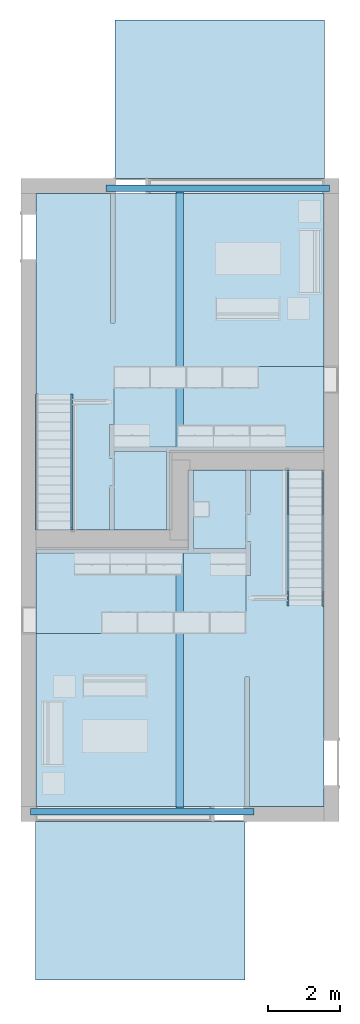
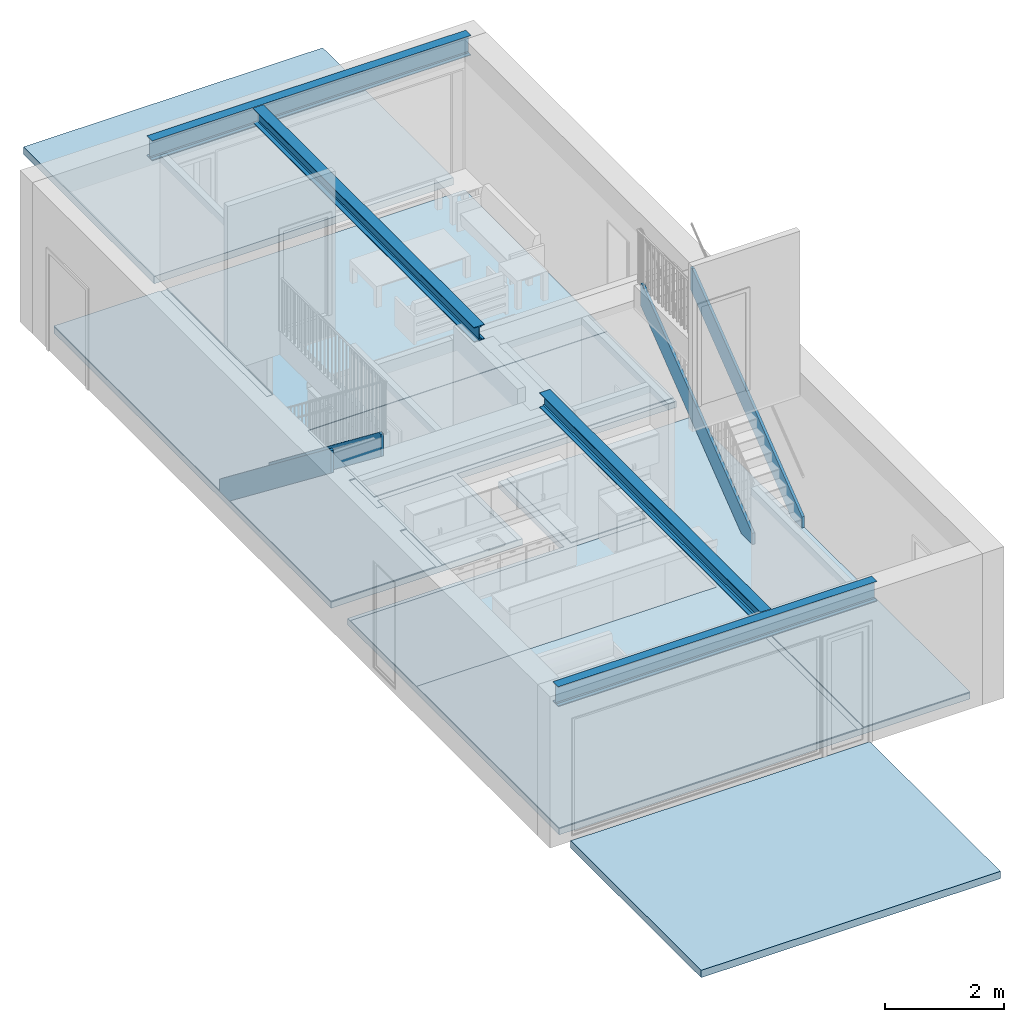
# One storey, part 1 of 18: 10 slabs, 4 beams, 4 members, 2 elements without a shape of their own.
"""IFC4 building model written with IfcOpenShell, lengths in metres."""

import ifcopenshell
import ifcopenshell.guid

model = None  # the IFC model being written
_history = None  # IfcOwnerHistory: only IFC2X3 demands one
_inside = {}  # id of a spatial element -> (the spatial element, [elements in it])
_under = {}  # id of a project, library or spatial element -> (it, [spatial elements below it])
_declared = {}  # id of a project -> (the project, [libraries it declares])
_typed = {}  # id of a type object -> (the type object, [elements of that type])
_made_of = {}  # id of a material, layer set ... -> (it, [elements and type objects made of it])


def new_model(schema):
    """Start an empty IFC model of exactly this schema.

    Asked for "IFC4X3", IfcOpenShell would pick the latest addendum, in which some entities
    have other attributes; the version numbers below select the first issue.
    IFC2X3 requires an IfcOwnerHistory on every rooted entity: one is made here for all.
    """
    global model, _history
    if schema == "IFC4X3":
        model = ifcopenshell.file(schema_version=(4, 3, 0, 0))
    else:
        model = ifcopenshell.file(schema=schema)
    _inside.clear()
    _under.clear()
    _declared.clear()
    _typed.clear()
    _made_of.clear()
    _history = None
    if model.schema == "IFC2X3":
        org = make("IfcOrganization", Name="unknown")
        user = make(
            "IfcPersonAndOrganization",
            ThePerson=make("IfcPerson", FamilyName="unknown"),
            TheOrganization=org,
        )
        app = make(
            "IfcApplication",
            ApplicationDeveloper=org,
            Version="unknown",
            ApplicationFullName="unknown",
            ApplicationIdentifier="unknown",
        )
        _history = make(
            "IfcOwnerHistory",
            OwningUser=user,
            OwningApplication=app,
            ChangeAction="ADDED",
            CreationDate=0,
        )
    return model


def make(cls, **values):
    """One entity of the class cls with the attributes given. An attribute that is None is left unset."""
    return model.create_entity(
        cls, **{name: value for name, value in values.items() if value is not None}
    )


def entity(cls, *values):
    """Any entity or typed value of the class cls, its attributes in the order of the schema. None: left unset."""
    e = model.create_entity(cls)
    for i, value in enumerate(values):
        if value is not None:
            e[i] = value
    return e


def rooted(cls, **values):
    """An entity with a GlobalId (a new one), such as an element, a storey or a relation."""
    return make(cls, GlobalId=ifcopenshell.guid.new(), OwnerHistory=_history, **values)


def si_unit(unit_type, name, prefix=None):
    """IfcSIUnit, for example si_unit("LENGTHUNIT", "METRE", prefix="MILLI")."""
    return make("IfcSIUnit", UnitType=unit_type, Prefix=prefix, Name=name)


def converted_unit(unit_type, name, factor, base, dimensions=None, offset=None):
    """IfcConversionBasedUnit, such as the inch: factor (a typed value) times the base unit."""
    return make(
        "IfcConversionBasedUnit"
        if offset is None
        else "IfcConversionBasedUnitWithOffset",
        ConversionOffset=offset,
        Dimensions=None
        if dimensions is None
        else entity("IfcDimensionalExponents", *dimensions),
        UnitType=unit_type,
        Name=name,
        ConversionFactor=make(
            "IfcMeasureWithUnit", ValueComponent=factor, UnitComponent=base
        ),
    )


def assignment(units):
    """IfcUnitAssignment: the units of a project."""
    return None if units is None else make("IfcUnitAssignment", Units=units)


def point(xyz):
    """IfcCartesianPoint."""
    return None if xyz is None else make("IfcCartesianPoint", Coordinates=xyz)


def direction(xyz):
    """IfcDirection."""
    return None if xyz is None else make("IfcDirection", DirectionRatios=xyz)


def frame(location, z_axis=None, x_axis=None):
    """IfcAxis2Placement3D, a coordinate frame: its origin and axes. An axis left out is left unset."""
    return make(
        "IfcAxis2Placement3D",
        Location=point(location),
        Axis=direction(z_axis),
        RefDirection=direction(x_axis),
    )


def frame_2d(location, x_axis=None):
    """IfcAxis2Placement2D, a coordinate frame in the plane: its origin and x axis."""
    return make(
        "IfcAxis2Placement2D", Location=point(location), RefDirection=direction(x_axis)
    )


def origin():
    """The frame at (0, 0, 0) with its axes left unset."""
    return frame((0.0, 0.0, 0.0))


def origin_2d_with_axis():
    """The frame at (0, 0) in the plane with the x axis (1, 0) written out."""
    return frame_2d((0.0, 0.0), x_axis=(1.0, 0.0))


def place(relative_to, where):
    """IfcLocalPlacement: puts the frame where relative to a parent placement (None: the world)."""
    return make(
        "IfcLocalPlacement", PlacementRelTo=relative_to, RelativePlacement=where
    )


def context(
    kind, dimensions, precision=None, world=None, true_north=None, identifier=None
):
    """IfcGeometricRepresentationContext, for example the 3D "Model" context."""
    return make(
        "IfcGeometricRepresentationContext",
        ContextIdentifier=identifier,
        ContextType=kind,
        CoordinateSpaceDimension=dimensions,
        Precision=precision,
        WorldCoordinateSystem=world,
        TrueNorth=true_north,
    )


def project(units=None, contexts=None):
    """IfcProject with its units and contexts."""
    return rooted(
        "IfcProject",
        Name="project",
        RepresentationContexts=contexts,
        UnitsInContext=assignment(units),
    )


def spatial(cls, under=None, at=None, **own):
    """A site, building, storey or space (cls), placed at a placement, below another one or the project."""
    s = rooted(cls, ObjectPlacement=at, **own)
    if under is not None:
        _under.setdefault(under.id(), (under, []))[1].append(s)
    return s


def polyline(points):
    """IfcPolyline through the points."""
    return make("IfcPolyline", Points=[point(p) for p in points])


def circle_curve(where, radius):
    """IfcCircle in the frame where."""
    return make("IfcCircle", Position=where, Radius=radius)


def parameter(value):
    """IfcParameterValue: where a trimmed curve begins or ends, as a parameter of its basis curve."""
    return model.create_entity("IfcParameterValue", value)


def trimmed(basis, trim1, trim2, sense, master):
    """IfcTrimmedCurve: the piece of a basis curve between two trims."""
    return make(
        "IfcTrimmedCurve",
        BasisCurve=basis,
        Trim1=trim1,
        Trim2=trim2,
        SenseAgreement=sense,
        MasterRepresentation=master,
    )


def segment(curve, same_sense, transition):
    """IfcCompositeCurveSegment."""
    return make(
        "IfcCompositeCurveSegment",
        Transition=transition,
        SameSense=same_sense,
        ParentCurve=curve,
    )


def composite_curve(segments, self_intersect=None):
    """IfcCompositeCurve: segments joined end to end."""
    return make("IfcCompositeCurve", Segments=segments, SelfIntersect=self_intersect)


def profile(cls, at=None, kind="AREA", **sizes):
    """A parametric profile (cls). Its sizes go by their IFC names, for example OverallWidth=200.0."""
    return make(cls, ProfileType=kind, Position=at, **sizes)


def rectangle(**sizes):
    """IfcRectangleProfileDef."""
    return profile("IfcRectangleProfileDef", **sizes)


def outline(outer, holes=None, kind="AREA"):
    """IfcArbitraryClosedProfileDef: a profile drawn as a closed curve; with holes, ...WithVoids."""
    if holes is None:
        return make("IfcArbitraryClosedProfileDef", ProfileType=kind, OuterCurve=outer)
    return make(
        "IfcArbitraryProfileDefWithVoids",
        ProfileType=kind,
        OuterCurve=outer,
        InnerCurves=holes,
    )


def extrude(swept, where, along, depth):
    """IfcExtrudedAreaSolid: the profile swept, set in the frame where, extruded along a direction by depth."""
    return make(
        "IfcExtrudedAreaSolid",
        SweptArea=swept,
        Position=where,
        ExtrudedDirection=direction(along),
        Depth=depth,
    )


def shape(context_of_items, identifier, shape_type, items):
    """IfcShapeRepresentation: the items that make up one representation, for example the "Body"."""
    return make(
        "IfcShapeRepresentation",
        ContextOfItems=context_of_items,
        RepresentationIdentifier=identifier,
        RepresentationType=shape_type,
        Items=items,
    )


def material(Name=None, Category=None):
    """IfcMaterial."""
    return make("IfcMaterial", Name=Name, Category=Category)


def layer(
    of_material, thickness, ventilated=None, Name=None, Category=None, Priority=None
):
    """IfcMaterialLayer: one layer of a wall or slab, of a material (None: an air gap)."""
    return make(
        "IfcMaterialLayer",
        Material=of_material,
        LayerThickness=thickness,
        IsVentilated=ventilated,
        Name=Name,
        Category=Category,
        Priority=Priority,
    )


def layer_set(layers, Name=None):
    """IfcMaterialLayerSet."""
    return make("IfcMaterialLayerSet", MaterialLayers=layers, LayerSetName=Name)


def layer_usage(for_layer_set, set_direction, sense, offset, extent=None):
    """IfcMaterialLayerSetUsage: how a layer set lies in its element."""
    return make(
        "IfcMaterialLayerSetUsage",
        ForLayerSet=for_layer_set,
        LayerSetDirection=set_direction,
        DirectionSense=sense,
        OffsetFromReferenceLine=offset,
        ReferenceExtent=extent,
    )


def made_of(thing, what):
    """Note that an element or type object is made of a material, layer set ...; save() writes the relation."""
    if what is not None:
        _made_of.setdefault(what.id(), (what, []))[1].append(thing)
    return thing


def element(
    cls,
    number,
    at=None,
    inside=None,
    cuts=None,
    type_object=None,
    material=None,
    context=None,
    identifier="Body",
    shape_type=None,
    held_by="IfcProductDefinitionShape",
    body=None,
    shapes=None,
    **own,
):
    """One element of the class cls, such as IfcWall. Its Tag is "e" and its number.

    at: its placement. inside: the storey or other place that contains it. cuts: it is an
    opening in that element (IfcRelVoidsElement). A single representation is given by context,
    identifier, shape_type and body (its items); several are given by shapes. held_by: the class
    of the entity that holds the representations. save() writes the other relations.
    """
    e = rooted(cls, Tag="e%d" % number, ObjectPlacement=at, **own)
    if body is not None:
        shapes = [shape(context, identifier, shape_type, body)]
    if shapes is not None:
        e.Representation = make(held_by, Representations=shapes)
    if inside is not None:
        _inside.setdefault(inside.id(), (inside, []))[1].append(e)
    if cuts is not None:
        rooted(
            "IfcRelVoidsElement", RelatingBuildingElement=cuts, RelatedOpeningElement=e
        )
    if type_object is not None:
        _typed.setdefault(type_object.id(), (type_object, []))[1].append(e)
    return made_of(e, material)


def aggregate(whole, parts):
    """IfcRelAggregates: a whole, such as a stair, and the parts it consists of."""
    return rooted("IfcRelAggregates", RelatingObject=whole, RelatedObjects=parts)


def save(model, path):
    """Write the relations noted so far, then the file.

    IfcRelAggregates (storeys below a building ...), IfcRelContainedInSpatialStructure (elements
    in a storey), IfcRelDefinesByType, IfcRelAssociatesMaterial and IfcRelDeclares: one each for
    every whole, place, type object, material and project.
    """
    for whole, parts in _under.values():
        aggregate(whole, parts)
    for where, things in _inside.values():
        rooted(
            "IfcRelContainedInSpatialStructure",
            RelatedElements=things,
            RelatingStructure=where,
        )
    for kind, things in _typed.values():
        rooted("IfcRelDefinesByType", RelatedObjects=things, RelatingType=kind)
    for what, things in _made_of.values():
        rooted("IfcRelAssociatesMaterial", RelatedObjects=things, RelatingMaterial=what)
    for by, libraries in _declared.values():
        rooted("IfcRelDeclares", RelatingContext=by, RelatedDefinitions=libraries)
    model.write(path)


model = new_model("IFC4")

# Units and contexts
model_context = context("Model", 3, precision=1e-09, world=origin())
plan_context = context("Plan", 3, precision=1e-09, world=origin())
ifc_project = project(units=[si_unit("LENGTHUNIT", "METRE"), si_unit("AREAUNIT", "SQUARE_METRE"), si_unit("VOLUMEUNIT", "CUBIC_METRE"), converted_unit("PLANEANGLEUNIT", "DEGREE", entity("IfcRatioMeasure", 0.01745329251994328), si_unit("PLANEANGLEUNIT", "RADIAN"), dimensions=[0, 0, 0, 0, 0, 0, 0]), si_unit("TIMEUNIT", "SECOND")], contexts=[model_context, plan_context])

# Site, building, storey
site_placement = place(None, origin())
site = spatial("IfcSite", under=ifc_project, at=site_placement, Name="Default", CompositionType="ELEMENT")
building_placement = place(site_placement, origin())
building = spatial("IfcBuilding", under=site, at=building_placement, CompositionType="ELEMENT")
storey_placement = place(building_placement, origin())
storey = spatial("IfcBuildingStorey", under=building, at=storey_placement, Name="Level 1", CompositionType="ELEMENT", Elevation=0.0)

# Beams
ifc_material_1 = material(Name="Metal - Steel - 345 MPa")
beam_1_placement = place(storey_placement, frame((0.208499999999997, -17.52299999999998, 3.100000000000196), z_axis=(0.0, 0.0, 1.0), x_axis=(0.0, -1.0, 0.0)))
element("IfcBeam", 1, at=beam_1_placement, inside=storey, material=ifc_material_1, Name="M_W-Wide Flange:W410X60:W410X60", ObjectType="M_W-Wide Flange:W410X60", context=model_context, shape_type="SweptSolid", body=[
    extrude(outline(composite_curve([segment(polyline([(-0.08900000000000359, -0.1907), (-0.08900000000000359, -0.2035000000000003)]), True, "CONTINUOUS"), segment(polyline([(-0.08900000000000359, -0.2035000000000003), (0.0889999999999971, -0.2035000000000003)]), True, "CONTINUOUS"), segment(polyline([(0.0889999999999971, -0.2035000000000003), (0.0889999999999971, -0.1907)]), True, "CONTINUOUS"), segment(polyline([(0.0889999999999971, -0.1907), (0.02104999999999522, -0.1907)]), True, "CONTINUOUS"), segment(trimmed(circle_curve(frame_2d((0.02104999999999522, -0.1734999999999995), x_axis=(0.0, -1.0)), 0.0172), [parameter(92.33515524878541)], [parameter(92.33515524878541)], True, "PARAMETER"), False, "CONTINUOUS"), segment(polyline([(0.003849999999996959, -0.1734999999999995), (0.003849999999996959, 0.1735000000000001)]), True, "CONTINUOUS"), segment(trimmed(circle_curve(frame_2d((0.02104999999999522, 0.1735000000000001), x_axis=(-1.0, 0.0)), 0.0172), [parameter(92.33515524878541)], [parameter(92.33515524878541)], True, "PARAMETER"), False, "CONTINUOUS"), segment(polyline([(0.02104999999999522, 0.1907), (0.0889999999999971, 0.1907)]), True, "CONTINUOUS"), segment(polyline([(0.0889999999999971, 0.1907), (0.0889999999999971, 0.2034999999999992)]), True, "CONTINUOUS"), segment(polyline([(0.0889999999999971, 0.2034999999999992), (-0.08900000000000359, 0.2034999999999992)]), True, "CONTINUOUS"), segment(polyline([(-0.08900000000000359, 0.2034999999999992), (-0.08900000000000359, 0.1907)]), True, "CONTINUOUS"), segment(polyline([(-0.08900000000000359, 0.1907), (-0.02105000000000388, 0.1907)]), True, "CONTINUOUS"), segment(trimmed(circle_curve(frame_2d((-0.02105000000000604, 0.1735000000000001), x_axis=(0.0, 1.0)), 0.0172), [parameter(92.33515524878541)], [parameter(92.33515524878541)], True, "PARAMETER"), False, "CONTINUOUS"), segment(polyline([(-0.003850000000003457, 0.1735000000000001), (-0.003850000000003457, -0.1734999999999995)]), True, "CONTINUOUS"), segment(trimmed(circle_curve(frame_2d((-0.02105000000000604, -0.1734999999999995), x_axis=(1.0, 0.0)), 0.0172), [parameter(92.33515524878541)], [parameter(92.33515524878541)], True, "PARAMETER"), False, "CONTINUOUS"), segment(polyline([(-0.02105000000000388, -0.1907), (-0.08900000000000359, -0.1907)]), True, "CONTINUOUS")], self_intersect=False)), frame((0.0, 0.05811287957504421, -0.2035000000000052), z_axis=(0.0, -1.0, 0.0), x_axis=(1.0, 0.0, 0.0)), (0.0, 0.0, -1.0), 6.181887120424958),
])
beam_2_placement = place(storey_placement, frame((8.591500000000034, -0.2770000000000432, 3.100000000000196), z_axis=(0.0, 0.0, 1.0), x_axis=(0.0, 1.0, 0.0)))
element("IfcBeam", 2, at=beam_2_placement, inside=storey, material=ifc_material_1, Name="M_W-Wide Flange:W410X60:W410X60", ObjectType="M_W-Wide Flange:W410X60", context=model_context, shape_type="SweptSolid", body=[
    extrude(outline(composite_curve([segment(polyline([(0.1906999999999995, -0.08900000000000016), (0.2034999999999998, -0.08900000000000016)]), True, "CONTINUOUS"), segment(polyline([(0.2034999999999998, -0.08900000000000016), (0.2034999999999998, 0.08900000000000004)]), True, "CONTINUOUS"), segment(polyline([(0.2034999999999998, 0.08900000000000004), (0.1906999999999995, 0.08900000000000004)]), True, "CONTINUOUS"), segment(polyline([(0.1906999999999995, 0.08900000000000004), (0.1906999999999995, 0.02104999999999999)]), True, "CONTINUOUS"), segment(trimmed(circle_curve(frame_2d((0.173499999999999, 0.02104999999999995), x_axis=(1.0, 0.0)), 0.0172), [parameter(92.33515524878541)], [parameter(92.33515524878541)], True, "PARAMETER"), False, "CONTINUOUS"), segment(polyline([(0.173499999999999, 0.003849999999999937), (-0.1735000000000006, 0.003849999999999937)]), True, "CONTINUOUS"), segment(trimmed(circle_curve(frame_2d((-0.1735000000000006, 0.02104999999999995), x_axis=(0.0, -1.0)), 0.0172), [parameter(92.33515524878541)], [parameter(92.33515524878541)], True, "PARAMETER"), False, "CONTINUOUS"), segment(polyline([(-0.1907000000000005, 0.02104999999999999), (-0.1907000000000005, 0.08900000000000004)]), True, "CONTINUOUS"), segment(polyline([(-0.1907000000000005, 0.08900000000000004), (-0.2034999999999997, 0.08900000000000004)]), True, "CONTINUOUS"), segment(polyline([(-0.2034999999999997, 0.08900000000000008), (-0.2034999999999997, -0.08899999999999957)]), True, "CONTINUOUS"), segment(polyline([(-0.2034999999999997, -0.08899999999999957), (-0.1907000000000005, -0.08899999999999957)]), True, "CONTINUOUS"), segment(polyline([(-0.1907000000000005, -0.08899999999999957), (-0.1907000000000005, -0.02105000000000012)]), True, "CONTINUOUS"), segment(trimmed(circle_curve(frame_2d((-0.1735000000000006, -0.02105000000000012), x_axis=(-1.0, 0.0)), 0.0172), [parameter(92.33515524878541)], [parameter(92.33515524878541)], True, "PARAMETER"), False, "CONTINUOUS"), segment(polyline([(-0.1735000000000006, -0.00385000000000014), (0.173499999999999, -0.00385000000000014)]), True, "CONTINUOUS"), segment(trimmed(circle_curve(frame_2d((0.173499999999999, -0.02105000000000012), x_axis=(0.0, 1.0)), 0.0172), [parameter(92.33515524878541)], [parameter(92.33515524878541)], True, "PARAMETER"), False, "CONTINUOUS"), segment(polyline([(0.1906999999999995, -0.02105000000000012), (0.1906999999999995, -0.08900000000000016)]), True, "CONTINUOUS")], self_intersect=False)), frame((0.0, 6.240000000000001, -0.2035000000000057), z_axis=(0.0, -1.0, 0.0), x_axis=(0.0, 0.0, -1.0)), (0.0, 0.0, 1.0), 6.181887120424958),
])
beam_3_placement = place(storey_placement, frame((4.4, -10.0, 3.100000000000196), z_axis=(0.0, 0.0, 1.0), x_axis=(-1.0, 0.0, 0.0)))
element("IfcBeam", 3, at=beam_3_placement, inside=storey, material=ifc_material_1, Name="M_W-Wide Flange:W310X60:W310X60", ObjectType="M_W-Wide Flange:W310X60", context=model_context, shape_type="SweptSolid", body=[
    extrude(outline(composite_curve([segment(polyline([(0.1383999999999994, -0.1015000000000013), (0.1515000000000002, -0.1015000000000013)]), True, "CONTINUOUS"), segment(polyline([(0.1515000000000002, -0.1015000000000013), (0.1515000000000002, 0.1014999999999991)]), True, "CONTINUOUS"), segment(polyline([(0.1515000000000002, 0.1014999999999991), (0.1383999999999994, 0.1014999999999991)]), True, "CONTINUOUS"), segment(polyline([(0.1383999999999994, 0.1014999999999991), (0.1383999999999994, 0.02364999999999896)]), True, "CONTINUOUS"), segment(trimmed(circle_curve(frame_2d((0.1184999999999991, 0.02364999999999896), x_axis=(0.0, 1.0)), 0.0199), [parameter(92.33515524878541)], [parameter(92.33515524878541)], True, "PARAMETER"), False, "CONTINUOUS"), segment(polyline([(0.1184999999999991, 0.003749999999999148), (-0.1185000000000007, 0.003749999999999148)]), True, "CONTINUOUS"), segment(trimmed(circle_curve(frame_2d((-0.1185000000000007, 0.02364999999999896), x_axis=(0.0, 1.0)), 0.0199), [parameter(92.33515524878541)], [parameter(92.33515524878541)], True, "PARAMETER"), False, "CONTINUOUS"), segment(polyline([(-0.1384000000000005, 0.02364999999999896), (-0.1384000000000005, 0.1014999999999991)]), True, "CONTINUOUS"), segment(polyline([(-0.1384000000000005, 0.1014999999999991), (-0.1514999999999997, 0.1014999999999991)]), True, "CONTINUOUS"), segment(polyline([(-0.1514999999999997, 0.1014999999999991), (-0.1514999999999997, -0.1015000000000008)]), True, "CONTINUOUS"), segment(polyline([(-0.1514999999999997, -0.1015000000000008), (-0.1384000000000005, -0.1015000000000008)]), True, "CONTINUOUS"), segment(polyline([(-0.1384000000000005, -0.1015000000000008), (-0.1384000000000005, -0.02365000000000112)]), True, "CONTINUOUS"), segment(trimmed(circle_curve(frame_2d((-0.1185000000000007, -0.02365000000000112), x_axis=(0.0, 1.0)), 0.0199), [parameter(92.33515524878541)], [parameter(92.33515524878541)], True, "PARAMETER"), False, "CONTINUOUS"), segment(polyline([(-0.1185000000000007, -0.003750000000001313), (0.1184999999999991, -0.003750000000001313)]), True, "CONTINUOUS"), segment(trimmed(circle_curve(frame_2d((0.1184999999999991, -0.02365000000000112), x_axis=(0.0, 1.0)), 0.0199), [parameter(92.33515524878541)], [parameter(92.33515524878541)], True, "PARAMETER"), False, "CONTINUOUS"), segment(polyline([(0.1383999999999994, -0.02365000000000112), (0.1383999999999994, -0.1015000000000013)]), True, "CONTINUOUS")], self_intersect=False)), frame((0.0, 7.421299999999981, -0.1515000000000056), z_axis=(0.0, -1.0, 0.0), x_axis=(0.0, 0.0, -1.0)), (0.0, 0.0, 1.0), 7.421299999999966),
])
beam_4_placement = place(storey_placement, frame((4.400000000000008, -7.799999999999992, 3.100000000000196)))
element("IfcBeam", 4, at=beam_4_placement, inside=storey, material=ifc_material_1, Name="M_W-Wide Flange:W310X60:W310X60", ObjectType="M_W-Wide Flange:W310X60", context=model_context, shape_type="SweptSolid", body=[
    extrude(outline(composite_curve([segment(polyline([(-0.1015000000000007, -0.1384), (-0.1015000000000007, -0.1515000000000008)]), True, "CONTINUOUS"), segment(polyline([(-0.1015000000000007, -0.1515000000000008), (0.1014999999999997, -0.1515000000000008)]), True, "CONTINUOUS"), segment(polyline([(0.1014999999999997, -0.1515000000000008), (0.1014999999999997, -0.1384)]), True, "CONTINUOUS"), segment(polyline([(0.1014999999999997, -0.1384), (0.0236499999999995, -0.1384)]), True, "CONTINUOUS"), segment(trimmed(circle_curve(frame_2d((0.0236499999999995, -0.1184999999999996), x_axis=(1.0, 0.0)), 0.0199), [parameter(92.33515524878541)], [parameter(92.33515524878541)], True, "PARAMETER"), False, "CONTINUOUS"), segment(polyline([(0.003749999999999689, -0.1184999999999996), (0.003749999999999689, 0.1185000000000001)]), True, "CONTINUOUS"), segment(trimmed(circle_curve(frame_2d((0.0236499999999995, 0.1185000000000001), x_axis=(1.0, 0.0)), 0.0199), [parameter(92.33515524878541)], [parameter(92.33515524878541)], True, "PARAMETER"), False, "CONTINUOUS"), segment(polyline([(0.0236499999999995, 0.1383999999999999), (0.1014999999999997, 0.1383999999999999)]), True, "CONTINUOUS"), segment(polyline([(0.1014999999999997, 0.1383999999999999), (0.1014999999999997, 0.1514999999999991)]), True, "CONTINUOUS"), segment(polyline([(0.1014999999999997, 0.1514999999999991), (-0.1015000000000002, 0.1514999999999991)]), True, "CONTINUOUS"), segment(polyline([(-0.1015000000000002, 0.1514999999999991), (-0.1015000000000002, 0.1383999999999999)]), True, "CONTINUOUS"), segment(polyline([(-0.1015000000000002, 0.1383999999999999), (-0.02365000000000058, 0.1383999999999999)]), True, "CONTINUOUS"), segment(trimmed(circle_curve(frame_2d((-0.02365000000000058, 0.1185000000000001), x_axis=(1.0, 0.0)), 0.0199), [parameter(92.33515524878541)], [parameter(92.33515524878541)], True, "PARAMETER"), False, "CONTINUOUS"), segment(polyline([(-0.003750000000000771, 0.1185000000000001), (-0.003750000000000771, -0.1184999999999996)]), True, "CONTINUOUS"), segment(trimmed(circle_curve(frame_2d((-0.02365000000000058, -0.1184999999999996), x_axis=(1.0, 0.0)), 0.0199), [parameter(92.33515524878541)], [parameter(92.33515524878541)], True, "PARAMETER"), False, "CONTINUOUS"), segment(polyline([(-0.02365000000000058, -0.1384), (-0.1015000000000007, -0.1384)]), True, "CONTINUOUS")], self_intersect=False)), frame((0.0, 0.0, -0.1515000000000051), z_axis=(0.0, -1.0, 0.0), x_axis=(1.0, 0.0, 0.0)), (0.0, 0.0, -1.0), 7.421299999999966),
])

# Stair, members
stair_1_placement = place(storey_placement, origin())
stair_1 = element("IfcStair", 5, at=stair_1_placement, inside=storey, Name="Stair:Residential - 200mm Max Riser 250mm Tread", ObjectType="Stair:Residential - 200mm Max Riser 250mm Tread")
member_1_placement = place(storey_placement, origin())
member_1 = element("IfcMember", 6, at=member_1_placement, Name="Stair:Residential - 200mm Max Riser 250mm Tread:1", ObjectType="stringer", context=model_context, shape_type="SweptSolid", body=[
    extrude(outline(polyline([(-1.919552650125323, -1.515471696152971), (-1.584402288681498, -1.515471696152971), (1.830447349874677, 1.131036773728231), (1.830447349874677, 1.584528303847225), (1.762612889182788, 1.584528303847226), (-1.919552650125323, -1.26914998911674), (-1.919552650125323, -1.515471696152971)])), frame((8.332999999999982, -9.90544734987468, 1.515471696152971), z_axis=(1.0, 0.0, 0.0), x_axis=(0.0, 1.0, 0.0)), (0.0, 0.0, 1.0), 0.04999999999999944),
])
member_2_placement = place(storey_placement, origin())
member_2 = element("IfcMember", 7, at=member_2_placement, Name="Stair:Residential - 200mm Max Riser 250mm Tread:2", ObjectType="stringer", context=model_context, shape_type="SweptSolid", body=[
    extrude(outline(polyline([(-1.919552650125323, -1.515471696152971), (-1.584402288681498, -1.515471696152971), (1.830447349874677, 1.131036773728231), (1.830447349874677, 1.584528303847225), (1.762612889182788, 1.584528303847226), (-1.919552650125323, -1.26914998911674), (-1.919552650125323, -1.515471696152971)])), frame((7.368599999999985, -9.905447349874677, 1.515471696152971), z_axis=(1.0, 0.0, 0.0), x_axis=(0.0, 1.0, 0.0)), (0.0, 0.0, 1.0), 0.04999999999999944),
])
aggregate(stair_1, [member_1, member_2])

stair_2_placement = place(storey_placement, origin())
stair_2 = element("IfcStair", 8, at=stair_2_placement, inside=storey, Name="Stair:Residential - 200mm Max Riser 250mm Tread", ObjectType="Stair:Residential - 200mm Max Riser 250mm Tread")
member_3_placement = place(storey_placement, origin())
member_3 = element("IfcMember", 9, at=member_3_placement, Name="Stair:Residential - 200mm Max Riser 250mm Tread:1", ObjectType="stringer", context=model_context, shape_type="SweptSolid", body=[
    extrude(outline(polyline([(-2.294688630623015, -0.1727083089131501), (2.363832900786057, -0.17270830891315), (2.417450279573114, -0.131154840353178), (2.139654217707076, 0.2272916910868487), (-2.180670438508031, 0.2272916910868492), (-2.445578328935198, 0.02198807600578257), (-2.294688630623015, -0.1727083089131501)])), frame((1.381400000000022, -7.894552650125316, 1.515471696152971), z_axis=(1.0, 0.0, 0.0), x_axis=(0.0, -0.7904150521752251, 0.6125716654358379)), (0.0, 0.0, 1.0), 0.05),
])
member_4_placement = place(storey_placement, origin())
member_4 = element("IfcMember", 10, at=member_4_placement, Name="Stair:Residential - 200mm Max Riser 250mm Tread:2", ObjectType="stringer", context=model_context, shape_type="SweptSolid", body=[
    extrude(outline(polyline([(-2.294688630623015, -0.1727083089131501), (2.363832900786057, -0.17270830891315), (2.417450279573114, -0.131154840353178), (2.139654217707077, 0.2272916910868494), (-2.18067043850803, 0.2272916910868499), (-2.445578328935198, 0.02198807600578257), (-2.294688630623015, -0.1727083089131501)])), frame((0.417000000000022, -7.894552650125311, 1.515471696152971), z_axis=(1.0, 0.0, 0.0), x_axis=(0.0, -0.7904150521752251, 0.6125716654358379)), (0.0, 0.0, 1.0), 0.05),
])
aggregate(stair_2, [member_3, member_4])

# Slabs
ifc_material_2 = material(Name="Wood - Flooring")
ifc_layer_1 = layer(ifc_material_2, 0.016)
ifc_material_3 = material(Name="Insulation / Thermal Barriers - Semi-rigid insulation")
ifc_layer_2 = layer(ifc_material_3, 0.003)
ifc_layer_set_1 = layer_set([ifc_layer_1, ifc_layer_2], Name="Floor:Finish Floor - Wood")
ifc_layer_usage_1 = layer_usage(ifc_layer_set_1, "AXIS3", "POSITIVE", 0.0)
slab_1_placement = place(storey_placement, frame((0.4169999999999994, -9.725000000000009, 0.0)))
element("IfcSlab", 11, at=slab_1_placement, inside=storey, material=ifc_layer_usage_1, Name="Floor:Finish Floor - Wood", ObjectType="Floor:Finish Floor - Wood", PredefinedType="FLOOR", context=model_context, shape_type="SweptSolid", body=[
    extrude(outline(polyline([(1.923999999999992, 4.654000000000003), (1.923999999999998, 1.071000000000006), (1.799999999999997, 1.071000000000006), (1.799999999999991, 4.654000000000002), (-3.983000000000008, 4.653999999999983), (-3.983, -0.1290000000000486), (1.825999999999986, -0.1289999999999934), (1.82599999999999, -1.733999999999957), (1.94999999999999, -1.733999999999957), (1.949999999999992, -2.677999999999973), (1.825999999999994, -2.677999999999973), (1.825999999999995, -3.441691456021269), (1.949999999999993, -3.441691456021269), (1.949999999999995, -4.653999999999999), (3.982999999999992, -4.653999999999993), (3.982999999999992, 4.65400000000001), (1.923999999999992, 4.654000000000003)])), frame((3.982999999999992, 4.653999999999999, 0.019), z_axis=(0.0, 0.0, -1.0), x_axis=(-1.0, 0.0, 0.0)), (0.0, 0.0, 1.0), 0.019),
])
ifc_layer_usage_2 = layer_usage(ifc_layer_set_1, "AXIS3", "POSITIVE", 0.0)
slab_2_placement = place(storey_placement, frame((0.4169999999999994, -17.38300000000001, 0.0)))
element("IfcSlab", 12, at=slab_2_placement, inside=storey, material=ifc_layer_usage_2, Name="Floor:Finish Floor - Wood", ObjectType="Floor:Finish Floor - Wood", PredefinedType="FLOOR", context=model_context, shape_type="SweptSolid", body=[
    extrude(outline(polyline([(-1.924000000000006, -4.654000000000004), (-1.924000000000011, -1.071000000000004), (-1.800000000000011, -1.071000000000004), (-1.800000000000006, -4.654000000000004), (3.98299999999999, -4.653999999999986), (3.98299999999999, 0.1290000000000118), (-1.826000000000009, 0.1289999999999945), (-1.826000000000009, 1.733999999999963), (-1.950000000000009, 1.733999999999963), (-1.95000000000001, 2.675999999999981), (-1.826000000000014, 2.675999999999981), (-1.826000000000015, 3.43799999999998), (-1.950000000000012, 3.43799999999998), (-1.950000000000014, 4.654000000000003), (-3.982999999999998, 4.653999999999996), (-3.982999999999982, -4.65400000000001), (-1.924000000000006, -4.654000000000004)])), frame((3.98299999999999, 4.65400000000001, 0.019), z_axis=(0.0, 0.0, -1.0), x_axis=(-1.0, 0.0, 0.0)), (0.0, 0.0, 1.0), 0.019),
])
ifc_material_4 = material(Name="Concrete")
ifc_layer_3 = layer(ifc_material_4, 0.127)
ifc_layer_set_2 = layer_set([ifc_layer_3], Name="Floor:127mm Slab on Grade")
ifc_layer_usage_3 = layer_usage(ifc_layer_set_2, "AXIS3", "POSITIVE", 0.0)
slab_3_placement = place(storey_placement, frame((0.4169999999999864, -9.725000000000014, -0.127)))
element("IfcSlab", 13, at=slab_3_placement, inside=storey, material=ifc_layer_usage_3, Name="Floor:127mm Slab on Grade", ObjectType="Floor:127mm Slab on Grade", PredefinedType="FLOOR", context=model_context, shape_type="SweptSolid", body=[
    extrude(outline(polyline([(-3.983000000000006, 4.653999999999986), (-3.982999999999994, -2.453999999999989), (0.2749999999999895, -2.453999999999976), (0.2749999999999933, -4.654000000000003), (3.983000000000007, -4.65399999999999), (3.982999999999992, 4.654000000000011), (-3.983000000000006, 4.653999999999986)])), frame((3.983000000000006, 4.654000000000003, 0.127), z_axis=(0.0, 0.0, -1.0), x_axis=(-1.0, 0.0, 0.0)), (0.0, 0.0, 1.0), 0.127),
])
ifc_material_5 = material(Name="Ceramic Tile")
ifc_layer_4 = layer(ifc_material_5, 0.01)
ifc_material_6 = material(Name="Masonry - Grout")
ifc_layer_5 = layer(ifc_material_6, 0.003)
ifc_layer_set_3 = layer_set([ifc_layer_4, ifc_layer_5], Name="Floor:Finish Floor - Ceramic Tile")
ifc_layer_usage_4 = layer_usage(ifc_layer_set_3, "AXIS3", "POSITIVE", 0.0)
slab_4_placement = place(storey_placement, frame((2.574000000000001, -7.429999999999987, 0.0)))
element("IfcSlab", 14, at=slab_4_placement, inside=storey, material=ifc_layer_usage_4, Name="Floor:Finish Floor - Ceramic Tile", ObjectType="Floor:Finish Floor - Ceramic Tile", PredefinedType="FLOOR", context=model_context, shape_type="SweptSolid", body=[
    extrude(rectangle(XDim=5.808999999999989, YDim=2.229999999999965, at=frame_2d((0.0, 0.0), x_axis=(-1.0, 0.0))), frame((2.904499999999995, 1.114999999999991, 0.013), z_axis=(0.0, 0.0, -1.0), x_axis=(-1.0, 0.0, 0.0)), (0.0, 0.0, 1.0), 0.013),
])
ifc_layer_usage_5 = layer_usage(ifc_layer_set_3, "AXIS3", "POSITIVE", 0.0)
slab_5_placement = place(storey_placement, frame((2.573999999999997, -9.725000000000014, 0.0)))
element("IfcSlab", 15, at=slab_5_placement, inside=storey, material=ifc_layer_usage_5, Name="Floor:Finish Floor - Ceramic Tile", ObjectType="Floor:Finish Floor - Ceramic Tile", PredefinedType="FLOOR", context=model_context, shape_type="SweptSolid", body=[
    extrude(rectangle(XDim=2.171000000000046, YDim=1.456000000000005, at=frame_2d((0.0, 0.0), x_axis=(0.0, -1.0))), frame((0.7280000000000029, 1.085500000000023, 0.013), z_axis=(0.0, 0.0, -1.0), x_axis=(-1.0, 0.0, 0.0)), (0.0, 0.0, 1.0), 0.013),
])
ifc_layer_usage_6 = layer_usage(ifc_layer_set_2, "AXIS3", "POSITIVE", 0.0)
slab_6_placement = place(storey_placement, frame((0.4169999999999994, -17.383, -0.127)))
element("IfcSlab", 16, at=slab_6_placement, inside=storey, material=ifc_layer_usage_6, Name="Floor:127mm Slab on Grade", ObjectType="Floor:127mm Slab on Grade", PredefinedType="FLOOR", context=model_context, shape_type="SweptSolid", body=[
    extrude(outline(polyline([(-3.983000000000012, 4.653999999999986), (-3.982999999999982, -4.65400000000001), (3.98299999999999, -4.653999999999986), (3.98299999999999, 2.453999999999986), (-0.2175000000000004, 2.453999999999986), (-0.2175000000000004, 4.653999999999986), (-3.983000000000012, 4.653999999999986)])), frame((3.98299999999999, 4.65400000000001, 0.127), z_axis=(0.0, 0.0, -1.0), x_axis=(-1.0, 0.0, 0.0)), (0.0, 0.0, 1.0), 0.127),
])
ifc_layer_usage_7 = layer_usage(ifc_layer_set_3, "AXIS3", "POSITIVE", 0.0)
slab_7_placement = place(storey_placement, frame((0.4169999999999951, -12.59999999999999, 0.0)))
element("IfcSlab", 17, at=slab_7_placement, inside=storey, material=ifc_layer_usage_7, Name="Floor:Finish Floor - Ceramic Tile", ObjectType="Floor:Finish Floor - Ceramic Tile", PredefinedType="FLOOR", context=model_context, shape_type="SweptSolid", body=[
    extrude(rectangle(XDim=5.809000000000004, YDim=2.229999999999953, at=frame_2d((0.0, 0.0), x_axis=(-1.0, 0.0))), frame((2.904500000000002, 1.114999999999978, 0.013), z_axis=(0.0, 0.0, -1.0), x_axis=(-1.0, 0.0, 0.0)), (0.0, 0.0, 1.0), 0.013),
])
ifc_layer_usage_8 = layer_usage(ifc_layer_set_3, "AXIS3", "POSITIVE", 0.0)
slab_8_placement = place(storey_placement, frame((4.770000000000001, -10.24600000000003, 0.0)))
element("IfcSlab", 18, at=slab_8_placement, inside=storey, material=ifc_layer_usage_8, Name="Floor:Finish Floor - Ceramic Tile", ObjectType="Floor:Finish Floor - Ceramic Tile", PredefinedType="FLOOR", context=model_context, shape_type="SweptSolid", body=[
    extrude(rectangle(XDim=1.456000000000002, YDim=2.171000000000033, at=frame_2d((0.0, 0.0), x_axis=(-1.0, 0.0))), frame((0.7280000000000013, 1.085500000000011, 0.013), z_axis=(0.0, 0.0, -1.0), x_axis=(-1.0, 0.0, 0.0)), (0.0, 0.0, 1.0), 0.013),
])
ifc_material_7 = material(Name="Concrete - Cast In Situ")
ifc_layer_6 = layer(ifc_material_7, 0.15)
ifc_layer_set_4 = layer_set([ifc_layer_6], Name="Floor:150mm Exterior Slab on Grade")
ifc_layer_usage_9 = layer_usage(ifc_layer_set_4, "AXIS3", "POSITIVE", 0.0)
slab_9_placement = place(storey_placement, frame((2.6, 0.0, -0.137)))
element("IfcSlab", 19, at=slab_9_placement, inside=storey, material=ifc_layer_usage_9, Name="Floor:150mm Exterior Slab on Grade", ObjectType="Floor:150mm Exterior Slab on Grade", PredefinedType="FLOOR", context=model_context, shape_type="SweptSolid", body=[
    extrude(rectangle(XDim=5.799999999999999, YDim=4.382734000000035, at=frame_2d((0.0, 0.0), x_axis=(-1.0, 0.0))), frame((2.899999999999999, 2.191367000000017, 0.15), z_axis=(0.0, 0.0, -1.0), x_axis=(-1.0, 0.0, 0.0)), (0.0, 0.0, 1.0), 0.15),
])
ifc_layer_usage_10 = layer_usage(ifc_layer_set_4, "AXIS3", "POSITIVE", 0.0)
slab_10_placement = place(storey_placement, frame((0.4, -22.18273399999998, -0.137)))
element("IfcSlab", 20, at=slab_10_placement, inside=storey, material=ifc_layer_usage_10, Name="Floor:150mm Exterior Slab on Grade", ObjectType="Floor:150mm Exterior Slab on Grade", PredefinedType="FLOOR", context=model_context, shape_type="SweptSolid", body=[
    extrude(rectangle(XDim=5.799999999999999, YDim=4.382734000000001, at=origin_2d_with_axis()), frame((2.9, 2.191366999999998, 0.15), z_axis=(0.0, 0.0, -1.0), x_axis=(-1.0, 0.0, 0.0)), (0.0, 0.0, 1.0), 0.15),
])

save(model, "model.ifc")
